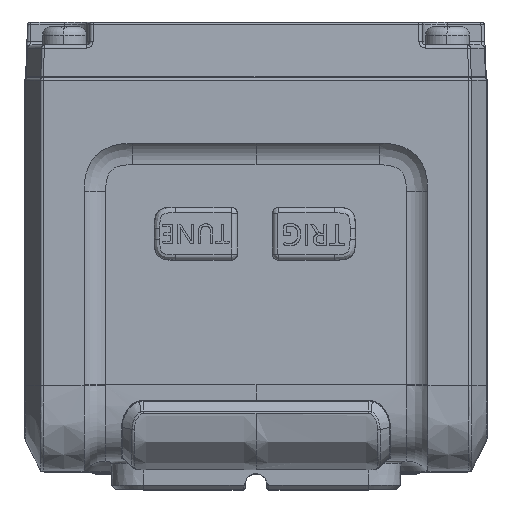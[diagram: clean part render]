
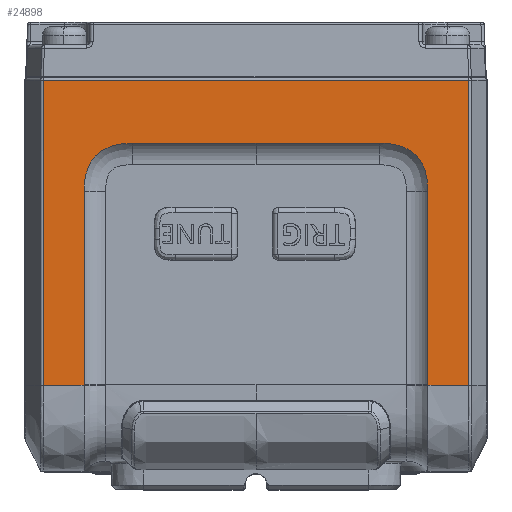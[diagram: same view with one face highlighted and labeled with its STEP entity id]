
A CAD part, top view. The second image highlights one B-rep face of the part: STEP entity #24898.
In plain terms, the highlighted planar face has unit normal (0, 0, 1).
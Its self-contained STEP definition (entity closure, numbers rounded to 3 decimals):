
#1955=DIRECTION('',(-1.,0.,0.));
#1956=VECTOR('',#1955,3.815);
#1957=CARTESIAN_POINT('',(-62.789,-13.4,
169.638));
#1958=LINE('',#1957,#1956);
#1959=DIRECTION('',(0.,1.,0.));
#1960=VECTOR('',#1959,0.046);
#1961=CARTESIAN_POINT('',(-66.603,-13.4,
169.638));
#1962=LINE('',#1961,#1960);
#1963=DIRECTION('',(0.,1.,0.));
#1964=VECTOR('',#1963,17.976);
#1965=CARTESIAN_POINT('',(-66.603,-13.354,
169.638));
#1966=LINE('',#1965,#1964);
#1967=CARTESIAN_POINT('',(-66.603,4.622,169.638));
#1968=CARTESIAN_POINT('',(-66.603,4.881,169.638));
#1969=CARTESIAN_POINT('',(-66.624,5.373,169.638));
#1970=CARTESIAN_POINT('',(-66.736,6.114,169.638));
#1971=CARTESIAN_POINT('',(-66.942,6.81,169.638));
#1972=CARTESIAN_POINT('',(-67.264,7.456,169.638));
#1973=CARTESIAN_POINT('',(-67.716,8.023,169.638));
#1974=CARTESIAN_POINT('',(-68.282,8.469,169.638));
#1975=CARTESIAN_POINT('',(-68.922,8.785,169.638));
#1976=CARTESIAN_POINT('',(-69.612,8.989,169.638));
#1977=CARTESIAN_POINT('',(-70.351,9.101,169.638));
#1978=CARTESIAN_POINT('',(-70.844,9.122,169.638));
#1979=CARTESIAN_POINT('',(-71.103,9.122,169.638));
#1981=DIRECTION('',(-1.,0.,0.));
#1982=VECTOR('',#1981,11.5);
#1983=CARTESIAN_POINT('',(-71.103,9.122,169.638));
#1984=LINE('',#1983,#1982);
#1985=CARTESIAN_POINT('',(-94.103,9.122,169.638));
#1986=CARTESIAN_POINT('',(-94.362,9.122,169.638));
#1987=CARTESIAN_POINT('',(-94.854,9.101,169.638));
#1988=CARTESIAN_POINT('',(-95.595,8.989,169.638));
#1989=CARTESIAN_POINT('',(-96.292,8.783,169.638));
#1990=CARTESIAN_POINT('',(-96.938,8.461,169.638));
#1991=CARTESIAN_POINT('',(-97.504,8.009,169.638));
#1992=CARTESIAN_POINT('',(-97.951,7.443,169.638));
#1993=CARTESIAN_POINT('',(-98.267,6.804,169.638));
#1994=CARTESIAN_POINT('',(-98.471,6.113,169.638));
#1995=CARTESIAN_POINT('',(-98.583,5.374,169.638));
#1996=CARTESIAN_POINT('',(-98.603,4.881,169.638));
#1997=CARTESIAN_POINT('',(-98.603,4.622,169.638));
#1999=DIRECTION('',(-1.,0.,0.));
#2000=VECTOR('',#1999,3.815);
#2001=CARTESIAN_POINT('',(-98.603,-13.4,
169.638));
#2002=LINE('',#2001,#2000);
#2003=DIRECTION('',(0.,-1.,0.));
#2004=VECTOR('',#2003,28.4);
#2005=CARTESIAN_POINT('',(-102.418,15.,169.638));
#2006=LINE('',#2005,#2004);
#2015=DIRECTION('',(-1.,0.,0.));
#2016=VECTOR('',#2015,39.629);
#2017=CARTESIAN_POINT('',(-62.789,15.,169.638));
#2018=LINE('',#2017,#2016);
#2097=DIRECTION('',(0.,1.,0.));
#2098=VECTOR('',#2097,28.4);
#2099=CARTESIAN_POINT('',(-62.789,-13.4,
169.638));
#2100=LINE('',#2099,#2098);
#9547=DIRECTION('',(0.,1.,0.));
#9548=VECTOR('',#9547,17.976);
#9549=CARTESIAN_POINT('',(-98.603,-13.354,
169.638));
#9550=LINE('',#9549,#9548);
#9560=DIRECTION('',(0.,1.,0.));
#9561=VECTOR('',#9560,0.046);
#9562=CARTESIAN_POINT('',(-98.603,-13.4,
169.638));
#9563=LINE('',#9562,#9561);
#9564=CARTESIAN_POINT('',(-98.603,-13.354,
169.638));
#9569=CARTESIAN_POINT('',(-98.603,-13.4,
169.638));
#9574=CARTESIAN_POINT('',(-94.103,9.122,169.638));
#9583=DIRECTION('',(1.,0.,0.));
#9584=VECTOR('',#9583,11.5);
#9585=CARTESIAN_POINT('',(-94.103,9.122,169.638));
#9586=LINE('',#9585,#9584);
#9587=CARTESIAN_POINT('',(-82.603,9.122,169.638));
#9599=CARTESIAN_POINT('',(-71.103,9.122,169.638));
#9608=CARTESIAN_POINT('',(-66.603,4.622,169.638));
#9613=CARTESIAN_POINT('',(-66.603,-13.354,
169.638));
#19427=VERTEX_POINT('',#9564);
#19428=CARTESIAN_POINT('',(-98.603,4.622,
169.638));
#19429=VERTEX_POINT('',#19428);
#19432=VERTEX_POINT('',#9569);
#19632=VERTEX_POINT('',#9613);
#19633=CARTESIAN_POINT('',(-66.603,-13.4,
169.638));
#19634=VERTEX_POINT('',#19633);
#19635=VERTEX_POINT('',#9608);
#19636=VERTEX_POINT('',#9599);
#19637=VERTEX_POINT('',#9587);
#19638=VERTEX_POINT('',#9574);
#19639=CARTESIAN_POINT('',(-102.418,15.,
169.638));
#19640=CARTESIAN_POINT('',(-102.418,-13.4,
169.638));
#19641=VERTEX_POINT('',#19639);
#19642=VERTEX_POINT('',#19640);
#19643=CARTESIAN_POINT('',(-62.789,15.,169.638));
#19644=VERTEX_POINT('',#19643);
#19645=CARTESIAN_POINT('',(-62.789,-13.4,
169.638));
#19646=VERTEX_POINT('',#19645);
#24866=CARTESIAN_POINT('',(-103.033,-13.686,
169.638));
#24867=DIRECTION('',(0.,0.,1.));
#24868=DIRECTION('',(1.,0.,0.));
#24869=AXIS2_PLACEMENT_3D('',#24866,#24867,#24868);
#24870=PLANE('',#24869);
#24872=ORIENTED_EDGE('',*,*,#24871,.F.);
#24874=ORIENTED_EDGE('',*,*,#24873,.F.);
#24876=ORIENTED_EDGE('',*,*,#24875,.F.);
#24878=ORIENTED_EDGE('',*,*,#24877,.T.);
#24880=ORIENTED_EDGE('',*,*,#24879,.T.);
#24882=ORIENTED_EDGE('',*,*,#24881,.T.);
#24884=ORIENTED_EDGE('',*,*,#24883,.T.);
#24886=ORIENTED_EDGE('',*,*,#24885,.T.);
#24888=ORIENTED_EDGE('',*,*,#24887,.F.);
#24890=ORIENTED_EDGE('',*,*,#24889,.T.);
#24892=ORIENTED_EDGE('',*,*,#24891,.F.);
#24894=ORIENTED_EDGE('',*,*,#24893,.F.);
#24895=ORIENTED_EDGE('',*,*,#24857,.T.);
#24896=EDGE_LOOP('',(#24872,#24874,#24876,#24878,#24880,#24882,#24884,#24886,
#24888,#24890,#24892,#24894,#24895));
#24897=FACE_OUTER_BOUND('',#24896,.F.);
#24898=ADVANCED_FACE('',(#24897),#24870,.T.);
#1980=B_SPLINE_CURVE_WITH_KNOTS('',3,(#1967,#1968,#1969,#1970,#1971,#1972,#1973,
#1974,#1975,#1976,#1977,#1978,#1979),.UNSPECIFIED.,.F.,.F.,(4,1,1,1,1,1,1,1,1,1,
4),(0.,0.119,0.227,0.327,
0.417,0.501,0.585,0.674,
0.772,0.881,1.),.UNSPECIFIED.);
#1998=B_SPLINE_CURVE_WITH_KNOTS('',3,(#1985,#1986,#1987,#1988,#1989,#1990,#1991,
#1992,#1993,#1994,#1995,#1996,#1997),.UNSPECIFIED.,.F.,.F.,(4,1,1,1,1,1,1,1,1,1,
4),(0.,0.119,0.227,0.327,
0.417,0.501,0.585,0.674,
0.772,0.881,1.),.UNSPECIFIED.);
#24857=EDGE_CURVE('',#19432,#19642,#2002,.T.);
#24871=EDGE_CURVE('',#19641,#19642,#2006,.T.);
#24873=EDGE_CURVE('',#19644,#19641,#2018,.T.);
#24875=EDGE_CURVE('',#19646,#19644,#2100,.T.);
#24877=EDGE_CURVE('',#19646,#19634,#1958,.T.);
#24879=EDGE_CURVE('',#19634,#19632,#1962,.T.);
#24881=EDGE_CURVE('',#19632,#19635,#1966,.T.);
#24883=EDGE_CURVE('',#19635,#19636,#1980,.T.);
#24885=EDGE_CURVE('',#19636,#19637,#1984,.T.);
#24887=EDGE_CURVE('',#19638,#19637,#9586,.T.);
#24889=EDGE_CURVE('',#19638,#19429,#1998,.T.);
#24891=EDGE_CURVE('',#19427,#19429,#9550,.T.);
#24893=EDGE_CURVE('',#19432,#19427,#9563,.T.);
